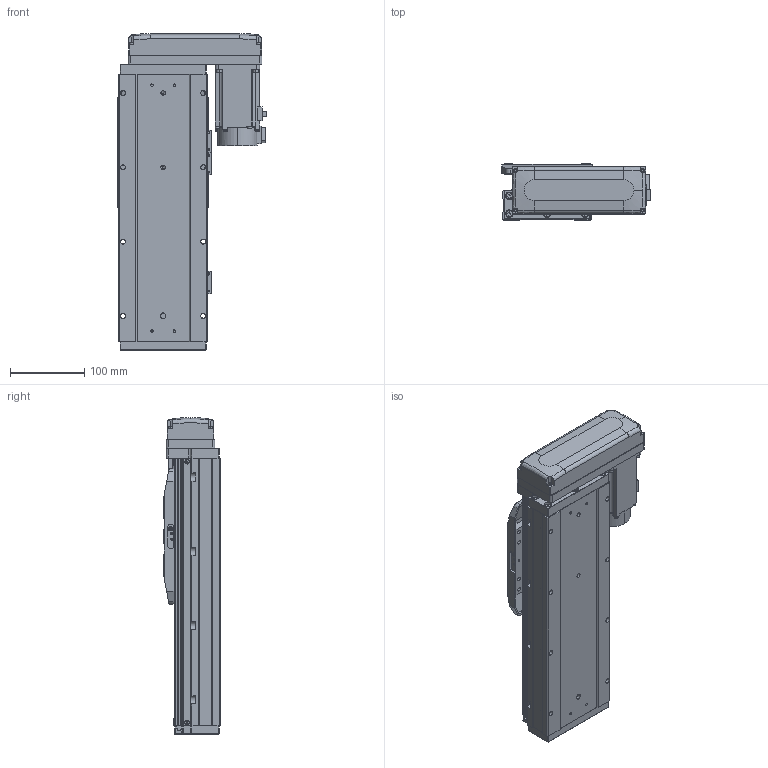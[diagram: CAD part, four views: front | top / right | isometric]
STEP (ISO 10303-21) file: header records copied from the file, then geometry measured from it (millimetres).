
FILE_DESCRIPTION (( 'STEP AP203' ), '1' );
FILE_NAME ('GTH12-150-BL-M40-C4.step', '2023-07-04T10:39:45', ( '微软用户' ), ( '微软中国' ), 'SwSTEP 2.0', 'SolidWorks 2020', '' );
FILE_SCHEMA (( 'CONFIG_CONTROL_DESIGN' ));
Length unit declared in the file: millimetre
Products named in the file (18): GBT 70.3-M3℅8; hg-kn43j_-s100_; GTH120-003; GTH80-022; CTHA86-033_M40B; GTH120-006; GTH80-028; GTH120-027-1_GTH120-027-2; GTH120-004; GTH50-023; GTH12-150-BL-M40-C4; GTH120-013; GTH50-024; GBT 70.1-M3℅6; GBT96.1-2002 3×0.8; GBT 70.1-M5×16; BTH-M3X5X6; GTH120-001_150
Assembly tree (59 placements, depth 2):
  GTH12-150-BL-M40-C4
    GTH120-001_150
    GTH120-003
    GTH120-006
    GTH120-004
    GTH120-013
    GBT 70.1-M3℅6  x14
    GBT 70.1-M5×16  x10
    GBT 70.3-M3℅8  x4
    GTH80-022
    GTH80-028  x2
    GTH50-023  x3
    GTH50-024  x3
    GBT96.1-2002 3×0.8  x6
    BTH-M3X5X6  x8
    hg-kn43j_-s100_
    CTHA86-033_M40B
    GTH120-027-1_GTH120-027-2
Bounding box: 199.8 x 76 x 425.5 mm (x, y, z)
Volume: 3628741.7 mm3; surface area: 425189.4 mm2
Topology: 61 solids, 61 shells, 2336 faces, 5411 edges, 3317 vertices
Faces by surface type: plane 1222, cylinder 654, cone 272, torus 174, sphere 8, bspline 6
Entity records: 42229 total; most frequent: CARTESIAN_POINT 7150, DIRECTION 6939, ORIENTED_EDGE 6432, EDGE_CURVE 3216, AXIS2_PLACEMENT_3D 2427, VECTOR 2085, LINE 2085, VERTEX_POINT 2038
